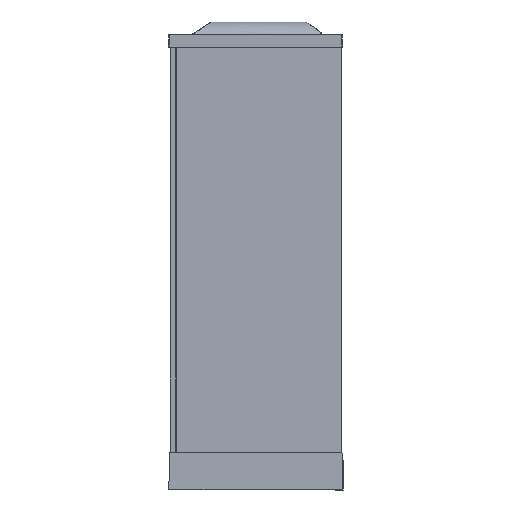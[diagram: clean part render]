
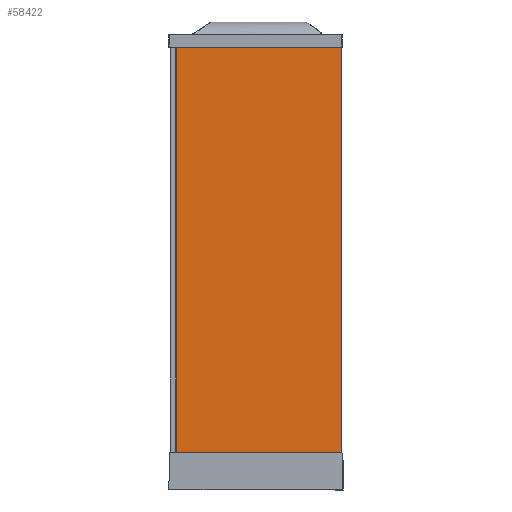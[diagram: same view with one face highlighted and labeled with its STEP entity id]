
A CAD part, left-side view. The second image highlights one B-rep face of the part: STEP entity #58422.
In plain terms, the highlighted free-form (B-spline) face has degree [1, 1] with [2, 2] control points.
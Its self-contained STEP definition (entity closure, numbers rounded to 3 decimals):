
#58334=CARTESIAN_POINT('',(-998.527,-789.402,173.92));
#58335=VERTEX_POINT('',#58334);
#58343=CARTESIAN_POINT('',(-998.527,-801.902,173.92));
#58344=VERTEX_POINT('',#58343);
#58351=CARTESIAN_POINT('',(-998.527,-801.902,173.92));
#58352=DIRECTION('',(0.0,1.0,0.0));
#58353=VECTOR('',#58352,12.5);
#58354=LINE('',#58351,#58353);
#58355=EDGE_CURVE('',#58344,#58335,#58354,.T.);
#58360=CARTESIAN_POINT('',(-998.527,-35.322,2063.14));
#58361=CARTESIAN_POINT('',(-998.527,-801.982,2063.14));
#58362=CARTESIAN_POINT('',(-998.527,-35.322,162.98));
#58363=CARTESIAN_POINT('',(-998.527,-801.982,162.98));
#58364=B_SPLINE_SURFACE_WITH_KNOTS('',1,1,((#58360,#58362),(#58361,#58363)),.UNSPECIFIED.,.F.,.F.,.U.,(2,2),(2,2),(82.959,849.619),(73.049,1973.209),.UNSPECIFIED.);
#58365=CARTESIAN_POINT('',(-998.527,-789.402,163.06));
#58366=VERTEX_POINT('',#58365);
#58367=CARTESIAN_POINT('',(-998.527,-789.402,173.92));
#58368=DIRECTION('',(0.0,0.0,-1.0));
#58369=VECTOR('',#58368,10.86);
#58370=LINE('',#58367,#58369);
#58371=EDGE_CURVE('',#58335,#58366,#58370,.T.);
#58372=ORIENTED_EDGE('',*,*,#58371,.F.);
#58373=ORIENTED_EDGE('',*,*,#58355,.F.);
#58374=CARTESIAN_POINT('',(-998.527,-801.902,2051.92));
#58375=VERTEX_POINT('',#58374);
#58376=CARTESIAN_POINT('',(-998.527,-801.902,2051.92));
#58377=DIRECTION('',(0.0,0.0,-1.0));
#58378=VECTOR('',#58377,1878.);
#58379=LINE('',#58376,#58378);
#58380=EDGE_CURVE('',#58375,#58344,#58379,.T.);
#58381=ORIENTED_EDGE('',*,*,#58380,.F.);
#58382=CARTESIAN_POINT('',(-998.527,-789.402,2051.92));
#58383=VERTEX_POINT('',#58382);
#58384=CARTESIAN_POINT('',(-998.527,-789.402,2051.92));
#58385=DIRECTION('',(0.0,-1.0,0.0));
#58386=VECTOR('',#58385,12.5);
#58387=LINE('',#58384,#58386);
#58388=EDGE_CURVE('',#58383,#58375,#58387,.T.);
#58389=ORIENTED_EDGE('',*,*,#58388,.F.);
#58390=CARTESIAN_POINT('',(-998.527,-789.402,2063.06));
#58391=VERTEX_POINT('',#58390);
#58392=CARTESIAN_POINT('',(-998.527,-789.402,2063.06));
#58393=DIRECTION('',(0.0,0.0,-1.0));
#58394=VECTOR('',#58393,11.14);
#58395=LINE('',#58392,#58394);
#58396=EDGE_CURVE('',#58391,#58383,#58395,.T.);
#58397=ORIENTED_EDGE('',*,*,#58396,.F.);
#58398=CARTESIAN_POINT('',(-998.527,-35.402,2063.06));
#58399=VERTEX_POINT('',#58398);
#58400=CARTESIAN_POINT('',(-998.527,-35.402,2063.06));
#58401=DIRECTION('',(0.0,-1.0,0.0));
#58402=VECTOR('',#58401,754.);
#58403=LINE('',#58400,#58402);
#58404=EDGE_CURVE('',#58399,#58391,#58403,.T.);
#58405=ORIENTED_EDGE('',*,*,#58404,.F.);
#58406=CARTESIAN_POINT('',(-998.527,-35.402,163.06));
#58407=VERTEX_POINT('',#58406);
#58408=CARTESIAN_POINT('',(-998.527,-35.402,163.06));
#58409=DIRECTION('',(0.0,0.0,1.0));
#58410=VECTOR('',#58409,1900.);
#58411=LINE('',#58408,#58410);
#58412=EDGE_CURVE('',#58407,#58399,#58411,.T.);
#58413=ORIENTED_EDGE('',*,*,#58412,.F.);
#58414=CARTESIAN_POINT('',(-998.527,-789.402,163.06));
#58415=DIRECTION('',(0.0,1.0,0.0));
#58416=VECTOR('',#58415,754.);
#58417=LINE('',#58414,#58416);
#58418=EDGE_CURVE('',#58366,#58407,#58417,.T.);
#58419=ORIENTED_EDGE('',*,*,#58418,.F.);
#58420=EDGE_LOOP('',(#58372,#58373,#58381,#58389,#58397,#58405,#58413,#58419));
#58421=FACE_OUTER_BOUND('',#58420,.T.);
#58422=ADVANCED_FACE('',(#58421),#58364,.F.);
